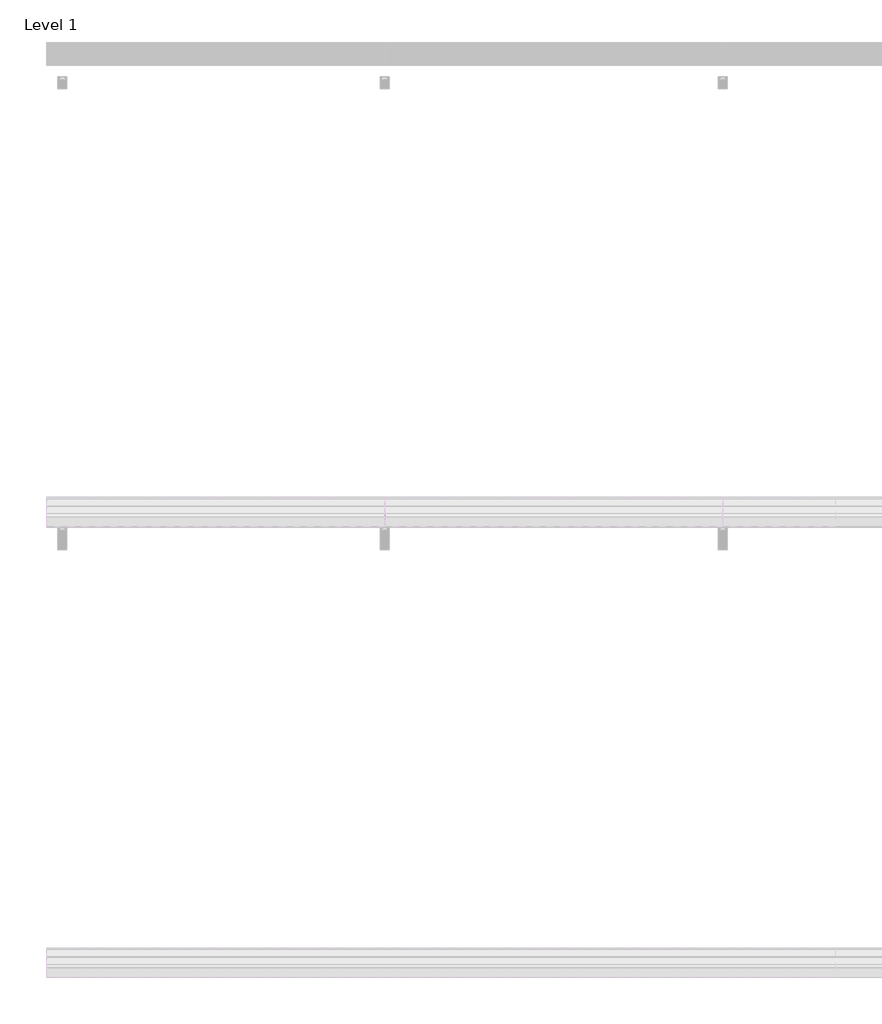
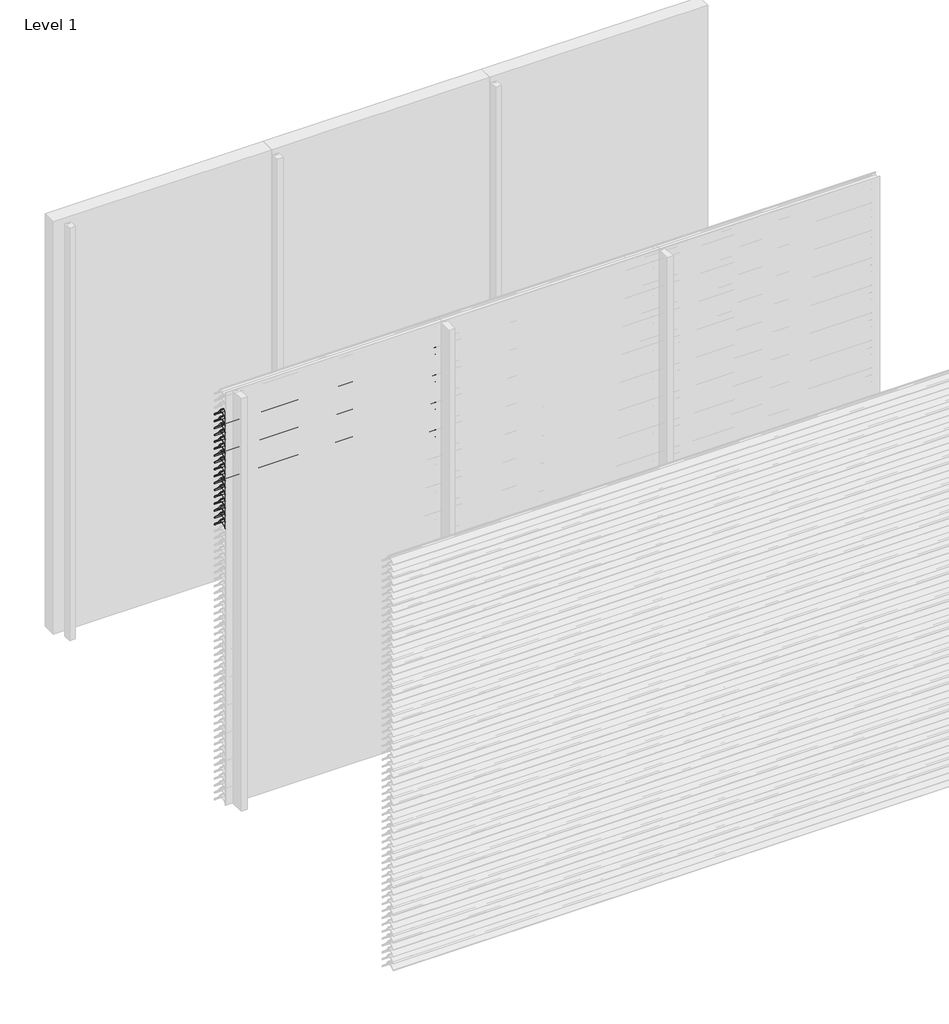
# One storey, part 58 of 173: 17 proxies.
"""IFC4 building model written with IfcOpenShell, lengths in millimetres."""

from ifc_helpers import new_model, si_unit, point, frame, frame_2d, origin, place, context, project, spatial, polyline, circle_curve, trimmed, segment, composite_curve, outline, extrude, element, save

model = new_model("IFC4")

# Units and contexts
model_context = context("Model", 3, world=origin())
ifc_project = project(units=[si_unit("LENGTHUNIT", "METRE", prefix="MILLI")], contexts=[model_context])

# Site, building, storey
site = spatial("IfcSite", under=ifc_project)
building = spatial("IfcBuilding", under=site)
storey = spatial("IfcBuildingStorey", under=building, Name="Level 1", Elevation=0.0)

# Proxies
placement = place(None, origin())
element("IfcBuildingElementProxy", 1, Name="Wall Sweeps", at=placement, inside=storey, context=model_context, shape_type="SweptSolid", body=[
    extrude(outline(composite_curve([segment(polyline([(-35998.0, 2809.1474905), (-35998.0, 2811.6227417)]), True, "CONTINUOUS"), segment(trimmed(circle_curve(frame_2d((-35951.2682172, 2766.2200208)), 65.1557103), [point((-35998.0, 2811.6227417))], [point((-35954.4014323, 2831.3003524))], False, "CARTESIAN"), True, "CONTINUOUS"), segment(polyline([(-35954.4014323, 2831.3003524), (-35934.8315836, 2831.3003524)]), True, "CONTINUOUS"), segment(trimmed(circle_curve(frame_2d((-35732.7329489, 2978.5533172)), 250.0545817), [point((-35934.8315836, 2831.3003524))], [point((-35941.4452143, 2840.8344583))], False, "CARTESIAN"), True, "CONTINUOUS"), segment(trimmed(circle_curve(frame_2d((-35953.2981792, 2835.1737835)), 13.1352966), [point((-35941.4452143, 2840.8344583))], [point((-35953.8171475, 2848.298824))], True, "CARTESIAN"), True, "CONTINUOUS"), segment(polyline([(-35953.8171475, 2848.298824), (-35953.8171475, 2850.0)]), True, "CONTINUOUS"), segment(trimmed(circle_curve(frame_2d((-35953.2981792, 2835.1737835)), 14.8352966), [point((-35953.8171475, 2850.0))], [point((-35939.9637661, 2841.6760487))], False, "CARTESIAN"), True, "CONTINUOUS"), segment(trimmed(circle_curve(frame_2d((-35732.7329489, 2978.5533172)), 248.3545817), [point((-35939.9637661, 2841.6760487))], [point((-35873.8787895, 2774.2059416))], True, "CARTESIAN"), True, "CONTINUOUS"), segment(trimmed(circle_curve(frame_2d((-35883.8147537, 2761.6649442)), 16.0), [point((-35873.8787895, 2774.2059416))], [point((-35867.8648347, 2760.4))], False, "CARTESIAN"), True, "CONTINUOUS"), segment(polyline([(-35867.8648347, 2760.4), (-35869.6712069, 2760.4)]), True, "CONTINUOUS"), segment(trimmed(circle_curve(frame_2d((-35883.8147537, 2761.6649442)), 14.2), [point((-35869.6712069, 2760.4))], [point((-35874.9518628, 2772.7594998))], True, "CARTESIAN"), True, "CONTINUOUS"), segment(trimmed(circle_curve(frame_2d((-35732.7329489, 2978.5533172)), 250.1545817), [point((-35874.9518628, 2772.7594998))], [point((-35933.7064024, 2829.6003524))], False, "CARTESIAN"), True, "CONTINUOUS"), segment(polyline([(-35933.7064024, 2829.6003524), (-35954.3602632, 2829.6003524)]), True, "CONTINUOUS"), segment(trimmed(circle_curve(frame_2d((-35951.2682172, 2766.2200208)), 63.4557103), [point((-35954.3602632, 2829.6003524))], [point((-35998.0, 2809.1474905))], True, "CARTESIAN"), True, "CONTINUOUS")], self_intersect=False)), frame((0.0, 0.0, 0.0), z_axis=(1.0, 0.0, 0.0), x_axis=(0.0, 1.0, 0.0)), (0.0, 0.0, 1.0), 1500.0),
])
element("IfcBuildingElementProxy", 2, Name="Wall Sweeps", at=placement, inside=storey, context=model_context, shape_type="SweptSolid", body=[
    extrude(outline(composite_curve([segment(polyline([(-35998.0, 2759.1474905), (-35998.0, 2761.6227417)]), True, "CONTINUOUS"), segment(trimmed(circle_curve(frame_2d((-35951.2682172, 2716.2200208)), 65.1557103), [point((-35998.0, 2761.6227417))], [point((-35954.4014323, 2781.3003524))], False, "CARTESIAN"), True, "CONTINUOUS"), segment(polyline([(-35954.4014323, 2781.3003524), (-35934.8315836, 2781.3003524)]), True, "CONTINUOUS"), segment(trimmed(circle_curve(frame_2d((-35732.7329489, 2928.5533172)), 250.0545817), [point((-35934.8315836, 2781.3003524))], [point((-35941.4452143, 2790.8344583))], False, "CARTESIAN"), True, "CONTINUOUS"), segment(trimmed(circle_curve(frame_2d((-35953.2981792, 2785.1737835)), 13.1352966), [point((-35941.4452143, 2790.8344583))], [point((-35953.8171475, 2798.298824))], True, "CARTESIAN"), True, "CONTINUOUS"), segment(polyline([(-35953.8171475, 2798.298824), (-35953.8171475, 2800.0)]), True, "CONTINUOUS"), segment(trimmed(circle_curve(frame_2d((-35953.2981792, 2785.1737835)), 14.8352966), [point((-35953.8171475, 2800.0))], [point((-35939.9637661, 2791.6760487))], False, "CARTESIAN"), True, "CONTINUOUS"), segment(trimmed(circle_curve(frame_2d((-35732.7329489, 2928.5533172)), 248.3545817), [point((-35939.9637661, 2791.6760487))], [point((-35873.8787895, 2724.2059416))], True, "CARTESIAN"), True, "CONTINUOUS"), segment(trimmed(circle_curve(frame_2d((-35883.8147537, 2711.6649442)), 16.0), [point((-35873.8787895, 2724.2059416))], [point((-35867.8648347, 2710.4))], False, "CARTESIAN"), True, "CONTINUOUS"), segment(polyline([(-35867.8648347, 2710.4), (-35869.6712069, 2710.4)]), True, "CONTINUOUS"), segment(trimmed(circle_curve(frame_2d((-35883.8147537, 2711.6649442)), 14.2), [point((-35869.6712069, 2710.4))], [point((-35874.9518628, 2722.7594998))], True, "CARTESIAN"), True, "CONTINUOUS"), segment(trimmed(circle_curve(frame_2d((-35732.7329489, 2928.5533172)), 250.1545817), [point((-35874.9518628, 2722.7594998))], [point((-35933.7064024, 2779.6003524))], False, "CARTESIAN"), True, "CONTINUOUS"), segment(polyline([(-35933.7064024, 2779.6003524), (-35954.3602632, 2779.6003524)]), True, "CONTINUOUS"), segment(trimmed(circle_curve(frame_2d((-35951.2682172, 2716.2200208)), 63.4557103), [point((-35954.3602632, 2779.6003524))], [point((-35998.0, 2759.1474905))], True, "CARTESIAN"), True, "CONTINUOUS")], self_intersect=False)), frame((0.0, 0.0, 0.0), z_axis=(1.0, 0.0, 0.0), x_axis=(0.0, 1.0, 0.0)), (0.0, 0.0, 1.0), 1500.0),
])
element("IfcBuildingElementProxy", 3, Name="Wall Sweeps", at=placement, inside=storey, context=model_context, shape_type="SweptSolid", body=[
    extrude(outline(composite_curve([segment(polyline([(-35998.0, 2709.1474905), (-35998.0, 2711.6227417)]), True, "CONTINUOUS"), segment(trimmed(circle_curve(frame_2d((-35951.2682172, 2666.2200208)), 65.1557103), [point((-35998.0, 2711.6227417))], [point((-35954.4014323, 2731.3003524))], False, "CARTESIAN"), True, "CONTINUOUS"), segment(polyline([(-35954.4014323, 2731.3003524), (-35934.8315836, 2731.3003524)]), True, "CONTINUOUS"), segment(trimmed(circle_curve(frame_2d((-35732.7329489, 2878.5533172)), 250.0545817), [point((-35934.8315836, 2731.3003524))], [point((-35941.4452143, 2740.8344583))], False, "CARTESIAN"), True, "CONTINUOUS"), segment(trimmed(circle_curve(frame_2d((-35953.2981792, 2735.1737835)), 13.1352966), [point((-35941.4452143, 2740.8344583))], [point((-35953.8171475, 2748.298824))], True, "CARTESIAN"), True, "CONTINUOUS"), segment(polyline([(-35953.8171475, 2748.298824), (-35953.8171475, 2750.0)]), True, "CONTINUOUS"), segment(trimmed(circle_curve(frame_2d((-35953.2981792, 2735.1737835)), 14.8352966), [point((-35953.8171475, 2750.0))], [point((-35939.9637661, 2741.6760487))], False, "CARTESIAN"), True, "CONTINUOUS"), segment(trimmed(circle_curve(frame_2d((-35732.7329489, 2878.5533172)), 248.3545817), [point((-35939.9637661, 2741.6760487))], [point((-35873.8787895, 2674.2059416))], True, "CARTESIAN"), True, "CONTINUOUS"), segment(trimmed(circle_curve(frame_2d((-35883.8147537, 2661.6649442)), 16.0), [point((-35873.8787895, 2674.2059416))], [point((-35867.8648347, 2660.4))], False, "CARTESIAN"), True, "CONTINUOUS"), segment(polyline([(-35867.8648347, 2660.4), (-35869.6712069, 2660.4)]), True, "CONTINUOUS"), segment(trimmed(circle_curve(frame_2d((-35883.8147537, 2661.6649442)), 14.2), [point((-35869.6712069, 2660.4))], [point((-35874.9518628, 2672.7594998))], True, "CARTESIAN"), True, "CONTINUOUS"), segment(trimmed(circle_curve(frame_2d((-35732.7329489, 2878.5533172)), 250.1545817), [point((-35874.9518628, 2672.7594998))], [point((-35933.7064024, 2729.6003524))], False, "CARTESIAN"), True, "CONTINUOUS"), segment(polyline([(-35933.7064024, 2729.6003524), (-35954.3602632, 2729.6003524)]), True, "CONTINUOUS"), segment(trimmed(circle_curve(frame_2d((-35951.2682172, 2666.2200208)), 63.4557103), [point((-35954.3602632, 2729.6003524))], [point((-35998.0, 2709.1474905))], True, "CARTESIAN"), True, "CONTINUOUS")], self_intersect=False)), frame((0.0, 0.0, 0.0), z_axis=(1.0, 0.0, 0.0), x_axis=(0.0, 1.0, 0.0)), (0.0, 0.0, 1.0), 1500.0),
])
element("IfcBuildingElementProxy", 4, Name="Wall Sweeps", at=placement, inside=storey, context=model_context, shape_type="SweptSolid", body=[
    extrude(outline(composite_curve([segment(polyline([(-35998.0, 2659.1474905), (-35998.0, 2661.6227417)]), True, "CONTINUOUS"), segment(trimmed(circle_curve(frame_2d((-35951.2682172, 2616.2200208)), 65.1557103), [point((-35998.0, 2661.6227417))], [point((-35954.4014323, 2681.3003524))], False, "CARTESIAN"), True, "CONTINUOUS"), segment(polyline([(-35954.4014323, 2681.3003524), (-35934.8315836, 2681.3003524)]), True, "CONTINUOUS"), segment(trimmed(circle_curve(frame_2d((-35732.7329489, 2828.5533172)), 250.0545817), [point((-35934.8315836, 2681.3003524))], [point((-35941.4452143, 2690.8344583))], False, "CARTESIAN"), True, "CONTINUOUS"), segment(trimmed(circle_curve(frame_2d((-35953.2981792, 2685.1737835)), 13.1352966), [point((-35941.4452143, 2690.8344583))], [point((-35953.8171475, 2698.298824))], True, "CARTESIAN"), True, "CONTINUOUS"), segment(polyline([(-35953.8171475, 2698.298824), (-35953.8171475, 2700.0)]), True, "CONTINUOUS"), segment(trimmed(circle_curve(frame_2d((-35953.2981792, 2685.1737835)), 14.8352966), [point((-35953.8171475, 2700.0))], [point((-35939.9637661, 2691.6760487))], False, "CARTESIAN"), True, "CONTINUOUS"), segment(trimmed(circle_curve(frame_2d((-35732.7329489, 2828.5533172)), 248.3545817), [point((-35939.9637661, 2691.6760487))], [point((-35873.8787895, 2624.2059416))], True, "CARTESIAN"), True, "CONTINUOUS"), segment(trimmed(circle_curve(frame_2d((-35883.8147537, 2611.6649442)), 16.0), [point((-35873.8787895, 2624.2059416))], [point((-35867.8648347, 2610.4))], False, "CARTESIAN"), True, "CONTINUOUS"), segment(polyline([(-35867.8648347, 2610.4), (-35869.6712069, 2610.4)]), True, "CONTINUOUS"), segment(trimmed(circle_curve(frame_2d((-35883.8147537, 2611.6649442)), 14.2), [point((-35869.6712069, 2610.4))], [point((-35874.9518628, 2622.7594998))], True, "CARTESIAN"), True, "CONTINUOUS"), segment(trimmed(circle_curve(frame_2d((-35732.7329489, 2828.5533172)), 250.1545817), [point((-35874.9518628, 2622.7594998))], [point((-35933.7064024, 2679.6003524))], False, "CARTESIAN"), True, "CONTINUOUS"), segment(polyline([(-35933.7064024, 2679.6003524), (-35954.3602632, 2679.6003524)]), True, "CONTINUOUS"), segment(trimmed(circle_curve(frame_2d((-35951.2682172, 2616.2200208)), 63.4557103), [point((-35954.3602632, 2679.6003524))], [point((-35998.0, 2659.1474905))], True, "CARTESIAN"), True, "CONTINUOUS")], self_intersect=False)), frame((0.0, 0.0, 0.0), z_axis=(1.0, 0.0, 0.0), x_axis=(0.0, 1.0, 0.0)), (0.0, 0.0, 1.0), 1500.0),
])
element("IfcBuildingElementProxy", 5, Name="Wall Sweeps", at=placement, inside=storey, context=model_context, shape_type="SweptSolid", body=[
    extrude(outline(composite_curve([segment(polyline([(-35998.0, 2609.1474905), (-35998.0, 2611.6227417)]), True, "CONTINUOUS"), segment(trimmed(circle_curve(frame_2d((-35951.2682172, 2566.2200208)), 65.1557103), [point((-35998.0, 2611.6227417))], [point((-35954.4014323, 2631.3003524))], False, "CARTESIAN"), True, "CONTINUOUS"), segment(polyline([(-35954.4014323, 2631.3003524), (-35934.8315836, 2631.3003524)]), True, "CONTINUOUS"), segment(trimmed(circle_curve(frame_2d((-35732.7329489, 2778.5533172)), 250.0545817), [point((-35934.8315836, 2631.3003524))], [point((-35941.4452143, 2640.8344583))], False, "CARTESIAN"), True, "CONTINUOUS"), segment(trimmed(circle_curve(frame_2d((-35953.2981792, 2635.1737835)), 13.1352966), [point((-35941.4452143, 2640.8344583))], [point((-35953.8171475, 2648.298824))], True, "CARTESIAN"), True, "CONTINUOUS"), segment(polyline([(-35953.8171475, 2648.298824), (-35953.8171475, 2650.0)]), True, "CONTINUOUS"), segment(trimmed(circle_curve(frame_2d((-35953.2981792, 2635.1737835)), 14.8352966), [point((-35953.8171475, 2650.0))], [point((-35939.9637661, 2641.6760487))], False, "CARTESIAN"), True, "CONTINUOUS"), segment(trimmed(circle_curve(frame_2d((-35732.7329489, 2778.5533172)), 248.3545817), [point((-35939.9637661, 2641.6760487))], [point((-35873.8787895, 2574.2059416))], True, "CARTESIAN"), True, "CONTINUOUS"), segment(trimmed(circle_curve(frame_2d((-35883.8147537, 2561.6649442)), 16.0), [point((-35873.8787895, 2574.2059416))], [point((-35867.8648347, 2560.4))], False, "CARTESIAN"), True, "CONTINUOUS"), segment(polyline([(-35867.8648347, 2560.4), (-35869.6712069, 2560.4)]), True, "CONTINUOUS"), segment(trimmed(circle_curve(frame_2d((-35883.8147537, 2561.6649442)), 14.2), [point((-35869.6712069, 2560.4))], [point((-35874.9518628, 2572.7594998))], True, "CARTESIAN"), True, "CONTINUOUS"), segment(trimmed(circle_curve(frame_2d((-35732.7329489, 2778.5533172)), 250.1545817), [point((-35874.9518628, 2572.7594998))], [point((-35933.7064024, 2629.6003524))], False, "CARTESIAN"), True, "CONTINUOUS"), segment(polyline([(-35933.7064024, 2629.6003524), (-35954.3602632, 2629.6003524)]), True, "CONTINUOUS"), segment(trimmed(circle_curve(frame_2d((-35951.2682172, 2566.2200208)), 63.4557103), [point((-35954.3602632, 2629.6003524))], [point((-35998.0, 2609.1474905))], True, "CARTESIAN"), True, "CONTINUOUS")], self_intersect=False)), frame((0.0, 0.0, 0.0), z_axis=(1.0, 0.0, 0.0), x_axis=(0.0, 1.0, 0.0)), (0.0, 0.0, 1.0), 1500.0),
])
element("IfcBuildingElementProxy", 6, Name="Wall Sweeps", at=placement, inside=storey, context=model_context, shape_type="SweptSolid", body=[
    extrude(outline(composite_curve([segment(polyline([(-35998.0, 2559.1474905), (-35998.0, 2561.6227417)]), True, "CONTINUOUS"), segment(trimmed(circle_curve(frame_2d((-35951.2682172, 2516.2200208)), 65.1557103), [point((-35998.0, 2561.6227417))], [point((-35954.4014323, 2581.3003524))], False, "CARTESIAN"), True, "CONTINUOUS"), segment(polyline([(-35954.4014323, 2581.3003524), (-35934.8315836, 2581.3003524)]), True, "CONTINUOUS"), segment(trimmed(circle_curve(frame_2d((-35732.7329489, 2728.5533172)), 250.0545817), [point((-35934.8315836, 2581.3003524))], [point((-35941.4452143, 2590.8344583))], False, "CARTESIAN"), True, "CONTINUOUS"), segment(trimmed(circle_curve(frame_2d((-35953.2981792, 2585.1737835)), 13.1352966), [point((-35941.4452143, 2590.8344583))], [point((-35953.8171475, 2598.298824))], True, "CARTESIAN"), True, "CONTINUOUS"), segment(polyline([(-35953.8171475, 2598.298824), (-35953.8171475, 2600.0)]), True, "CONTINUOUS"), segment(trimmed(circle_curve(frame_2d((-35953.2981792, 2585.1737835)), 14.8352966), [point((-35953.8171475, 2600.0))], [point((-35939.9637661, 2591.6760487))], False, "CARTESIAN"), True, "CONTINUOUS"), segment(trimmed(circle_curve(frame_2d((-35732.7329489, 2728.5533172)), 248.3545817), [point((-35939.9637661, 2591.6760487))], [point((-35873.8787895, 2524.2059416))], True, "CARTESIAN"), True, "CONTINUOUS"), segment(trimmed(circle_curve(frame_2d((-35883.8147537, 2511.6649442)), 16.0), [point((-35873.8787895, 2524.2059416))], [point((-35867.8648347, 2510.4))], False, "CARTESIAN"), True, "CONTINUOUS"), segment(polyline([(-35867.8648347, 2510.4), (-35869.6712069, 2510.4)]), True, "CONTINUOUS"), segment(trimmed(circle_curve(frame_2d((-35883.8147537, 2511.6649442)), 14.2), [point((-35869.6712069, 2510.4))], [point((-35874.9518628, 2522.7594998))], True, "CARTESIAN"), True, "CONTINUOUS"), segment(trimmed(circle_curve(frame_2d((-35732.7329489, 2728.5533172)), 250.1545817), [point((-35874.9518628, 2522.7594998))], [point((-35933.7064024, 2579.6003524))], False, "CARTESIAN"), True, "CONTINUOUS"), segment(polyline([(-35933.7064024, 2579.6003524), (-35954.3602632, 2579.6003524)]), True, "CONTINUOUS"), segment(trimmed(circle_curve(frame_2d((-35951.2682172, 2516.2200208)), 63.4557103), [point((-35954.3602632, 2579.6003524))], [point((-35998.0, 2559.1474905))], True, "CARTESIAN"), True, "CONTINUOUS")], self_intersect=False)), frame((0.0, 0.0, 0.0), z_axis=(1.0, 0.0, 0.0), x_axis=(0.0, 1.0, 0.0)), (0.0, 0.0, 1.0), 1500.0),
])
element("IfcBuildingElementProxy", 7, Name="Wall Sweeps", at=placement, inside=storey, context=model_context, shape_type="SweptSolid", body=[
    extrude(outline(composite_curve([segment(polyline([(-35998.0, 2509.1474905), (-35998.0, 2511.6227417)]), True, "CONTINUOUS"), segment(trimmed(circle_curve(frame_2d((-35951.2682172, 2466.2200208)), 65.1557103), [point((-35998.0, 2511.6227417))], [point((-35954.4014323, 2531.3003524))], False, "CARTESIAN"), True, "CONTINUOUS"), segment(polyline([(-35954.4014323, 2531.3003524), (-35934.8315836, 2531.3003524)]), True, "CONTINUOUS"), segment(trimmed(circle_curve(frame_2d((-35732.7329489, 2678.5533172)), 250.0545817), [point((-35934.8315836, 2531.3003524))], [point((-35941.4452143, 2540.8344583))], False, "CARTESIAN"), True, "CONTINUOUS"), segment(trimmed(circle_curve(frame_2d((-35953.2981792, 2535.1737835)), 13.1352966), [point((-35941.4452143, 2540.8344583))], [point((-35953.8171475, 2548.298824))], True, "CARTESIAN"), True, "CONTINUOUS"), segment(polyline([(-35953.8171475, 2548.298824), (-35953.8171475, 2550.0)]), True, "CONTINUOUS"), segment(trimmed(circle_curve(frame_2d((-35953.2981792, 2535.1737835)), 14.8352966), [point((-35953.8171475, 2550.0))], [point((-35939.9637661, 2541.6760487))], False, "CARTESIAN"), True, "CONTINUOUS"), segment(trimmed(circle_curve(frame_2d((-35732.7329489, 2678.5533172)), 248.3545817), [point((-35939.9637661, 2541.6760487))], [point((-35873.8787895, 2474.2059416))], True, "CARTESIAN"), True, "CONTINUOUS"), segment(trimmed(circle_curve(frame_2d((-35883.8147537, 2461.6649442)), 16.0), [point((-35873.8787895, 2474.2059416))], [point((-35867.8648347, 2460.4))], False, "CARTESIAN"), True, "CONTINUOUS"), segment(polyline([(-35867.8648347, 2460.4), (-35869.6712069, 2460.4)]), True, "CONTINUOUS"), segment(trimmed(circle_curve(frame_2d((-35883.8147537, 2461.6649442)), 14.2), [point((-35869.6712069, 2460.4))], [point((-35874.9518628, 2472.7594998))], True, "CARTESIAN"), True, "CONTINUOUS"), segment(trimmed(circle_curve(frame_2d((-35732.7329489, 2678.5533172)), 250.1545817), [point((-35874.9518628, 2472.7594998))], [point((-35933.7064024, 2529.6003524))], False, "CARTESIAN"), True, "CONTINUOUS"), segment(polyline([(-35933.7064024, 2529.6003524), (-35954.3602632, 2529.6003524)]), True, "CONTINUOUS"), segment(trimmed(circle_curve(frame_2d((-35951.2682172, 2466.2200208)), 63.4557103), [point((-35954.3602632, 2529.6003524))], [point((-35998.0, 2509.1474905))], True, "CARTESIAN"), True, "CONTINUOUS")], self_intersect=False)), frame((0.0, 0.0, 0.0), z_axis=(1.0, 0.0, 0.0), x_axis=(0.0, 1.0, 0.0)), (0.0, 0.0, 1.0), 1500.0),
])
element("IfcBuildingElementProxy", 8, Name="Wall Sweeps", at=placement, inside=storey, context=model_context, shape_type="SweptSolid", body=[
    extrude(outline(composite_curve([segment(polyline([(-35998.0, 2459.1474905), (-35998.0, 2461.6227417)]), True, "CONTINUOUS"), segment(trimmed(circle_curve(frame_2d((-35951.2682172, 2416.2200208)), 65.1557103), [point((-35998.0, 2461.6227417))], [point((-35954.4014323, 2481.3003524))], False, "CARTESIAN"), True, "CONTINUOUS"), segment(polyline([(-35954.4014323, 2481.3003524), (-35934.8315836, 2481.3003524)]), True, "CONTINUOUS"), segment(trimmed(circle_curve(frame_2d((-35732.7329489, 2628.5533172)), 250.0545817), [point((-35934.8315836, 2481.3003524))], [point((-35941.4452143, 2490.8344583))], False, "CARTESIAN"), True, "CONTINUOUS"), segment(trimmed(circle_curve(frame_2d((-35953.2981792, 2485.1737835)), 13.1352966), [point((-35941.4452143, 2490.8344583))], [point((-35953.8171475, 2498.298824))], True, "CARTESIAN"), True, "CONTINUOUS"), segment(polyline([(-35953.8171475, 2498.298824), (-35953.8171475, 2500.0)]), True, "CONTINUOUS"), segment(trimmed(circle_curve(frame_2d((-35953.2981792, 2485.1737835)), 14.8352966), [point((-35953.8171475, 2500.0))], [point((-35939.9637661, 2491.6760487))], False, "CARTESIAN"), True, "CONTINUOUS"), segment(trimmed(circle_curve(frame_2d((-35732.7329489, 2628.5533172)), 248.3545817), [point((-35939.9637661, 2491.6760487))], [point((-35873.8787895, 2424.2059416))], True, "CARTESIAN"), True, "CONTINUOUS"), segment(trimmed(circle_curve(frame_2d((-35883.8147537, 2411.6649442)), 16.0), [point((-35873.8787895, 2424.2059416))], [point((-35867.8648347, 2410.4))], False, "CARTESIAN"), True, "CONTINUOUS"), segment(polyline([(-35867.8648347, 2410.4), (-35869.6712069, 2410.4)]), True, "CONTINUOUS"), segment(trimmed(circle_curve(frame_2d((-35883.8147537, 2411.6649442)), 14.2), [point((-35869.6712069, 2410.4))], [point((-35874.9518628, 2422.7594998))], True, "CARTESIAN"), True, "CONTINUOUS"), segment(trimmed(circle_curve(frame_2d((-35732.7329489, 2628.5533172)), 250.1545817), [point((-35874.9518628, 2422.7594998))], [point((-35933.7064024, 2479.6003524))], False, "CARTESIAN"), True, "CONTINUOUS"), segment(polyline([(-35933.7064024, 2479.6003524), (-35954.3602632, 2479.6003524)]), True, "CONTINUOUS"), segment(trimmed(circle_curve(frame_2d((-35951.2682172, 2416.2200208)), 63.4557103), [point((-35954.3602632, 2479.6003524))], [point((-35998.0, 2459.1474905))], True, "CARTESIAN"), True, "CONTINUOUS")], self_intersect=False)), frame((0.0, 0.0, 0.0), z_axis=(1.0, 0.0, 0.0), x_axis=(0.0, 1.0, 0.0)), (0.0, 0.0, 1.0), 1500.0),
])
element("IfcBuildingElementProxy", 9, Name="Wall Sweeps", at=placement, inside=storey, context=model_context, shape_type="SweptSolid", body=[
    extrude(outline(composite_curve([segment(polyline([(-35998.0, 2409.1474905), (-35998.0, 2411.6227417)]), True, "CONTINUOUS"), segment(trimmed(circle_curve(frame_2d((-35951.2682172, 2366.2200208)), 65.1557103), [point((-35998.0, 2411.6227417))], [point((-35954.4014323, 2431.3003524))], False, "CARTESIAN"), True, "CONTINUOUS"), segment(polyline([(-35954.4014323, 2431.3003524), (-35934.8315836, 2431.3003524)]), True, "CONTINUOUS"), segment(trimmed(circle_curve(frame_2d((-35732.7329489, 2578.5533172)), 250.0545817), [point((-35934.8315836, 2431.3003524))], [point((-35941.4452143, 2440.8344583))], False, "CARTESIAN"), True, "CONTINUOUS"), segment(trimmed(circle_curve(frame_2d((-35953.2981792, 2435.1737835)), 13.1352966), [point((-35941.4452143, 2440.8344583))], [point((-35953.8171475, 2448.298824))], True, "CARTESIAN"), True, "CONTINUOUS"), segment(polyline([(-35953.8171475, 2448.298824), (-35953.8171475, 2450.0)]), True, "CONTINUOUS"), segment(trimmed(circle_curve(frame_2d((-35953.2981792, 2435.1737835)), 14.8352966), [point((-35953.8171475, 2450.0))], [point((-35939.9637661, 2441.6760487))], False, "CARTESIAN"), True, "CONTINUOUS"), segment(trimmed(circle_curve(frame_2d((-35732.7329489, 2578.5533172)), 248.3545817), [point((-35939.9637661, 2441.6760487))], [point((-35873.8787895, 2374.2059416))], True, "CARTESIAN"), True, "CONTINUOUS"), segment(trimmed(circle_curve(frame_2d((-35883.8147537, 2361.6649442)), 16.0), [point((-35873.8787895, 2374.2059416))], [point((-35867.8648347, 2360.4))], False, "CARTESIAN"), True, "CONTINUOUS"), segment(polyline([(-35867.8648347, 2360.4), (-35869.6712069, 2360.4)]), True, "CONTINUOUS"), segment(trimmed(circle_curve(frame_2d((-35883.8147537, 2361.6649442)), 14.2), [point((-35869.6712069, 2360.4))], [point((-35874.9518628, 2372.7594998))], True, "CARTESIAN"), True, "CONTINUOUS"), segment(trimmed(circle_curve(frame_2d((-35732.7329489, 2578.5533172)), 250.1545817), [point((-35874.9518628, 2372.7594998))], [point((-35933.7064024, 2429.6003524))], False, "CARTESIAN"), True, "CONTINUOUS"), segment(polyline([(-35933.7064024, 2429.6003524), (-35954.3602632, 2429.6003524)]), True, "CONTINUOUS"), segment(trimmed(circle_curve(frame_2d((-35951.2682172, 2366.2200208)), 63.4557103), [point((-35954.3602632, 2429.6003524))], [point((-35998.0, 2409.1474905))], True, "CARTESIAN"), True, "CONTINUOUS")], self_intersect=False)), frame((0.0, 0.0, 0.0), z_axis=(1.0, 0.0, 0.0), x_axis=(0.0, 1.0, 0.0)), (0.0, 0.0, 1.0), 1500.0),
])
element("IfcBuildingElementProxy", 10, Name="Wall Sweeps", at=placement, inside=storey, context=model_context, shape_type="SweptSolid", body=[
    extrude(outline(composite_curve([segment(polyline([(-35998.0, 2359.1474905), (-35998.0, 2361.6227417)]), True, "CONTINUOUS"), segment(trimmed(circle_curve(frame_2d((-35951.2682172, 2316.2200208)), 65.1557103), [point((-35998.0, 2361.6227417))], [point((-35954.4014323, 2381.3003524))], False, "CARTESIAN"), True, "CONTINUOUS"), segment(polyline([(-35954.4014323, 2381.3003524), (-35934.8315836, 2381.3003524)]), True, "CONTINUOUS"), segment(trimmed(circle_curve(frame_2d((-35732.7329489, 2528.5533172)), 250.0545817), [point((-35934.8315836, 2381.3003524))], [point((-35941.4452143, 2390.8344583))], False, "CARTESIAN"), True, "CONTINUOUS"), segment(trimmed(circle_curve(frame_2d((-35953.2981792, 2385.1737835)), 13.1352966), [point((-35941.4452143, 2390.8344583))], [point((-35953.8171475, 2398.298824))], True, "CARTESIAN"), True, "CONTINUOUS"), segment(polyline([(-35953.8171475, 2398.298824), (-35953.8171475, 2400.0)]), True, "CONTINUOUS"), segment(trimmed(circle_curve(frame_2d((-35953.2981792, 2385.1737835)), 14.8352966), [point((-35953.8171475, 2400.0))], [point((-35939.9637661, 2391.6760487))], False, "CARTESIAN"), True, "CONTINUOUS"), segment(trimmed(circle_curve(frame_2d((-35732.7329489, 2528.5533172)), 248.3545817), [point((-35939.9637661, 2391.6760487))], [point((-35873.8787895, 2324.2059416))], True, "CARTESIAN"), True, "CONTINUOUS"), segment(trimmed(circle_curve(frame_2d((-35883.8147537, 2311.6649442)), 16.0), [point((-35873.8787895, 2324.2059416))], [point((-35867.8648347, 2310.4))], False, "CARTESIAN"), True, "CONTINUOUS"), segment(polyline([(-35867.8648347, 2310.4), (-35869.6712069, 2310.4)]), True, "CONTINUOUS"), segment(trimmed(circle_curve(frame_2d((-35883.8147537, 2311.6649442)), 14.2), [point((-35869.6712069, 2310.4))], [point((-35874.9518628, 2322.7594998))], True, "CARTESIAN"), True, "CONTINUOUS"), segment(trimmed(circle_curve(frame_2d((-35732.7329489, 2528.5533172)), 250.1545817), [point((-35874.9518628, 2322.7594998))], [point((-35933.7064024, 2379.6003524))], False, "CARTESIAN"), True, "CONTINUOUS"), segment(polyline([(-35933.7064024, 2379.6003524), (-35954.3602632, 2379.6003524)]), True, "CONTINUOUS"), segment(trimmed(circle_curve(frame_2d((-35951.2682172, 2316.2200208)), 63.4557103), [point((-35954.3602632, 2379.6003524))], [point((-35998.0, 2359.1474905))], True, "CARTESIAN"), True, "CONTINUOUS")], self_intersect=False)), frame((0.0, 0.0, 0.0), z_axis=(1.0, 0.0, 0.0), x_axis=(0.0, 1.0, 0.0)), (0.0, 0.0, 1.0), 1500.0),
])
element("IfcBuildingElementProxy", 11, Name="Wall Sweeps", at=placement, inside=storey, context=model_context, shape_type="SweptSolid", body=[
    extrude(outline(composite_curve([segment(polyline([(-35998.0, 2309.1474905), (-35998.0, 2311.6227417)]), True, "CONTINUOUS"), segment(trimmed(circle_curve(frame_2d((-35951.2682172, 2266.2200208)), 65.1557103), [point((-35998.0, 2311.6227417))], [point((-35954.4014323, 2331.3003524))], False, "CARTESIAN"), True, "CONTINUOUS"), segment(polyline([(-35954.4014323, 2331.3003524), (-35934.8315836, 2331.3003524)]), True, "CONTINUOUS"), segment(trimmed(circle_curve(frame_2d((-35732.7329489, 2478.5533172)), 250.0545817), [point((-35934.8315836, 2331.3003524))], [point((-35941.4452143, 2340.8344583))], False, "CARTESIAN"), True, "CONTINUOUS"), segment(trimmed(circle_curve(frame_2d((-35953.2981792, 2335.1737835)), 13.1352966), [point((-35941.4452143, 2340.8344583))], [point((-35953.8171475, 2348.298824))], True, "CARTESIAN"), True, "CONTINUOUS"), segment(polyline([(-35953.8171475, 2348.298824), (-35953.8171475, 2350.0)]), True, "CONTINUOUS"), segment(trimmed(circle_curve(frame_2d((-35953.2981792, 2335.1737835)), 14.8352966), [point((-35953.8171475, 2350.0))], [point((-35939.9637661, 2341.6760487))], False, "CARTESIAN"), True, "CONTINUOUS"), segment(trimmed(circle_curve(frame_2d((-35732.7329489, 2478.5533172)), 248.3545817), [point((-35939.9637661, 2341.6760487))], [point((-35873.8787895, 2274.2059416))], True, "CARTESIAN"), True, "CONTINUOUS"), segment(trimmed(circle_curve(frame_2d((-35883.8147537, 2261.6649442)), 16.0), [point((-35873.8787895, 2274.2059416))], [point((-35867.8648347, 2260.4))], False, "CARTESIAN"), True, "CONTINUOUS"), segment(polyline([(-35867.8648347, 2260.4), (-35869.6712069, 2260.4)]), True, "CONTINUOUS"), segment(trimmed(circle_curve(frame_2d((-35883.8147537, 2261.6649442)), 14.2), [point((-35869.6712069, 2260.4))], [point((-35874.9518628, 2272.7594998))], True, "CARTESIAN"), True, "CONTINUOUS"), segment(trimmed(circle_curve(frame_2d((-35732.7329489, 2478.5533172)), 250.1545817), [point((-35874.9518628, 2272.7594998))], [point((-35933.7064024, 2329.6003524))], False, "CARTESIAN"), True, "CONTINUOUS"), segment(polyline([(-35933.7064024, 2329.6003524), (-35954.3602632, 2329.6003524)]), True, "CONTINUOUS"), segment(trimmed(circle_curve(frame_2d((-35951.2682172, 2266.2200208)), 63.4557103), [point((-35954.3602632, 2329.6003524))], [point((-35998.0, 2309.1474905))], True, "CARTESIAN"), True, "CONTINUOUS")], self_intersect=False)), frame((0.0, 0.0, 0.0), z_axis=(1.0, 0.0, 0.0), x_axis=(0.0, 1.0, 0.0)), (0.0, 0.0, 1.0), 1500.0),
])
element("IfcBuildingElementProxy", 12, Name="Wall Sweeps", at=placement, inside=storey, context=model_context, shape_type="SweptSolid", body=[
    extrude(outline(composite_curve([segment(polyline([(-35998.0, 2259.1474905), (-35998.0, 2261.6227417)]), True, "CONTINUOUS"), segment(trimmed(circle_curve(frame_2d((-35951.2682172, 2216.2200208)), 65.1557103), [point((-35998.0, 2261.6227417))], [point((-35954.4014323, 2281.3003524))], False, "CARTESIAN"), True, "CONTINUOUS"), segment(polyline([(-35954.4014323, 2281.3003524), (-35934.8315836, 2281.3003524)]), True, "CONTINUOUS"), segment(trimmed(circle_curve(frame_2d((-35732.7329489, 2428.5533172)), 250.0545817), [point((-35934.8315836, 2281.3003524))], [point((-35941.4452143, 2290.8344583))], False, "CARTESIAN"), True, "CONTINUOUS"), segment(trimmed(circle_curve(frame_2d((-35953.2981792, 2285.1737835)), 13.1352966), [point((-35941.4452143, 2290.8344583))], [point((-35953.8171475, 2298.298824))], True, "CARTESIAN"), True, "CONTINUOUS"), segment(polyline([(-35953.8171475, 2298.298824), (-35953.8171475, 2300.0)]), True, "CONTINUOUS"), segment(trimmed(circle_curve(frame_2d((-35953.2981792, 2285.1737835)), 14.8352966), [point((-35953.8171475, 2300.0))], [point((-35939.9637661, 2291.6760487))], False, "CARTESIAN"), True, "CONTINUOUS"), segment(trimmed(circle_curve(frame_2d((-35732.7329489, 2428.5533172)), 248.3545817), [point((-35939.9637661, 2291.6760487))], [point((-35873.8787895, 2224.2059416))], True, "CARTESIAN"), True, "CONTINUOUS"), segment(trimmed(circle_curve(frame_2d((-35883.8147537, 2211.6649442)), 16.0), [point((-35873.8787895, 2224.2059416))], [point((-35867.8648347, 2210.4))], False, "CARTESIAN"), True, "CONTINUOUS"), segment(polyline([(-35867.8648347, 2210.4), (-35869.6712069, 2210.4)]), True, "CONTINUOUS"), segment(trimmed(circle_curve(frame_2d((-35883.8147537, 2211.6649442)), 14.2), [point((-35869.6712069, 2210.4))], [point((-35874.9518628, 2222.7594998))], True, "CARTESIAN"), True, "CONTINUOUS"), segment(trimmed(circle_curve(frame_2d((-35732.7329489, 2428.5533172)), 250.1545817), [point((-35874.9518628, 2222.7594998))], [point((-35933.7064024, 2279.6003524))], False, "CARTESIAN"), True, "CONTINUOUS"), segment(polyline([(-35933.7064024, 2279.6003524), (-35954.3602632, 2279.6003524)]), True, "CONTINUOUS"), segment(trimmed(circle_curve(frame_2d((-35951.2682172, 2216.2200208)), 63.4557103), [point((-35954.3602632, 2279.6003524))], [point((-35998.0, 2259.1474905))], True, "CARTESIAN"), True, "CONTINUOUS")], self_intersect=False)), frame((0.0, 0.0, 0.0), z_axis=(1.0, 0.0, 0.0), x_axis=(0.0, 1.0, 0.0)), (0.0, 0.0, 1.0), 1500.0),
])
element("IfcBuildingElementProxy", 13, Name="Wall Sweeps", at=placement, inside=storey, context=model_context, shape_type="SweptSolid", body=[
    extrude(outline(composite_curve([segment(polyline([(-35998.0, 2209.1474905), (-35998.0, 2211.6227417)]), True, "CONTINUOUS"), segment(trimmed(circle_curve(frame_2d((-35951.2682172, 2166.2200208)), 65.1557103), [point((-35998.0, 2211.6227417))], [point((-35954.4014323, 2231.3003524))], False, "CARTESIAN"), True, "CONTINUOUS"), segment(polyline([(-35954.4014323, 2231.3003524), (-35934.8315836, 2231.3003524)]), True, "CONTINUOUS"), segment(trimmed(circle_curve(frame_2d((-35732.7329489, 2378.5533172)), 250.0545817), [point((-35934.8315836, 2231.3003524))], [point((-35941.4452143, 2240.8344583))], False, "CARTESIAN"), True, "CONTINUOUS"), segment(trimmed(circle_curve(frame_2d((-35953.2981792, 2235.1737835)), 13.1352966), [point((-35941.4452143, 2240.8344583))], [point((-35953.8171475, 2248.298824))], True, "CARTESIAN"), True, "CONTINUOUS"), segment(polyline([(-35953.8171475, 2248.298824), (-35953.8171475, 2250.0)]), True, "CONTINUOUS"), segment(trimmed(circle_curve(frame_2d((-35953.2981792, 2235.1737835)), 14.8352966), [point((-35953.8171475, 2250.0))], [point((-35939.9637661, 2241.6760487))], False, "CARTESIAN"), True, "CONTINUOUS"), segment(trimmed(circle_curve(frame_2d((-35732.7329489, 2378.5533172)), 248.3545817), [point((-35939.9637661, 2241.6760487))], [point((-35873.8787895, 2174.2059416))], True, "CARTESIAN"), True, "CONTINUOUS"), segment(trimmed(circle_curve(frame_2d((-35883.8147537, 2161.6649442)), 16.0), [point((-35873.8787895, 2174.2059416))], [point((-35867.8648347, 2160.4))], False, "CARTESIAN"), True, "CONTINUOUS"), segment(polyline([(-35867.8648347, 2160.4), (-35869.6712069, 2160.4)]), True, "CONTINUOUS"), segment(trimmed(circle_curve(frame_2d((-35883.8147537, 2161.6649442)), 14.2), [point((-35869.6712069, 2160.4))], [point((-35874.9518628, 2172.7594998))], True, "CARTESIAN"), True, "CONTINUOUS"), segment(trimmed(circle_curve(frame_2d((-35732.7329489, 2378.5533172)), 250.1545817), [point((-35874.9518628, 2172.7594998))], [point((-35933.7064024, 2229.6003524))], False, "CARTESIAN"), True, "CONTINUOUS"), segment(polyline([(-35933.7064024, 2229.6003524), (-35954.3602632, 2229.6003524)]), True, "CONTINUOUS"), segment(trimmed(circle_curve(frame_2d((-35951.2682172, 2166.2200208)), 63.4557103), [point((-35954.3602632, 2229.6003524))], [point((-35998.0, 2209.1474905))], True, "CARTESIAN"), True, "CONTINUOUS")], self_intersect=False)), frame((0.0, 0.0, 0.0), z_axis=(1.0, 0.0, 0.0), x_axis=(0.0, 1.0, 0.0)), (0.0, 0.0, 1.0), 1500.0),
])
element("IfcBuildingElementProxy", 14, Name="Wall Sweeps", at=placement, inside=storey, context=model_context, shape_type="SweptSolid", body=[
    extrude(outline(composite_curve([segment(polyline([(-35998.0, 2159.1474905), (-35998.0, 2161.6227417)]), True, "CONTINUOUS"), segment(trimmed(circle_curve(frame_2d((-35951.2682172, 2116.2200208)), 65.1557103), [point((-35998.0, 2161.6227417))], [point((-35954.4014323, 2181.3003524))], False, "CARTESIAN"), True, "CONTINUOUS"), segment(polyline([(-35954.4014323, 2181.3003524), (-35934.8315836, 2181.3003524)]), True, "CONTINUOUS"), segment(trimmed(circle_curve(frame_2d((-35732.7329489, 2328.5533172)), 250.0545817), [point((-35934.8315836, 2181.3003524))], [point((-35941.4452143, 2190.8344583))], False, "CARTESIAN"), True, "CONTINUOUS"), segment(trimmed(circle_curve(frame_2d((-35953.2981792, 2185.1737835)), 13.1352966), [point((-35941.4452143, 2190.8344583))], [point((-35953.8171475, 2198.298824))], True, "CARTESIAN"), True, "CONTINUOUS"), segment(polyline([(-35953.8171475, 2198.298824), (-35953.8171475, 2200.0)]), True, "CONTINUOUS"), segment(trimmed(circle_curve(frame_2d((-35953.2981792, 2185.1737835)), 14.8352966), [point((-35953.8171475, 2200.0))], [point((-35939.9637661, 2191.6760487))], False, "CARTESIAN"), True, "CONTINUOUS"), segment(trimmed(circle_curve(frame_2d((-35732.7329489, 2328.5533172)), 248.3545817), [point((-35939.9637661, 2191.6760487))], [point((-35873.8787895, 2124.2059416))], True, "CARTESIAN"), True, "CONTINUOUS"), segment(trimmed(circle_curve(frame_2d((-35883.8147537, 2111.6649442)), 16.0), [point((-35873.8787895, 2124.2059416))], [point((-35867.8648347, 2110.4))], False, "CARTESIAN"), True, "CONTINUOUS"), segment(polyline([(-35867.8648347, 2110.4), (-35869.6712069, 2110.4)]), True, "CONTINUOUS"), segment(trimmed(circle_curve(frame_2d((-35883.8147537, 2111.6649442)), 14.2), [point((-35869.6712069, 2110.4))], [point((-35874.9518628, 2122.7594998))], True, "CARTESIAN"), True, "CONTINUOUS"), segment(trimmed(circle_curve(frame_2d((-35732.7329489, 2328.5533172)), 250.1545817), [point((-35874.9518628, 2122.7594998))], [point((-35933.7064024, 2179.6003524))], False, "CARTESIAN"), True, "CONTINUOUS"), segment(polyline([(-35933.7064024, 2179.6003524), (-35954.3602632, 2179.6003524)]), True, "CONTINUOUS"), segment(trimmed(circle_curve(frame_2d((-35951.2682172, 2116.2200208)), 63.4557103), [point((-35954.3602632, 2179.6003524))], [point((-35998.0, 2159.1474905))], True, "CARTESIAN"), True, "CONTINUOUS")], self_intersect=False)), frame((0.0, 0.0, 0.0), z_axis=(1.0, 0.0, 0.0), x_axis=(0.0, 1.0, 0.0)), (0.0, 0.0, 1.0), 1500.0),
])
element("IfcBuildingElementProxy", 15, Name="Wall Sweeps", at=placement, inside=storey, context=model_context, shape_type="SweptSolid", body=[
    extrude(outline(composite_curve([segment(polyline([(-35998.0, 2109.1474905), (-35998.0, 2111.6227417)]), True, "CONTINUOUS"), segment(trimmed(circle_curve(frame_2d((-35951.2682172, 2066.2200208)), 65.1557103), [point((-35998.0, 2111.6227417))], [point((-35954.4014323, 2131.3003524))], False, "CARTESIAN"), True, "CONTINUOUS"), segment(polyline([(-35954.4014323, 2131.3003524), (-35934.8315836, 2131.3003524)]), True, "CONTINUOUS"), segment(trimmed(circle_curve(frame_2d((-35732.7329489, 2278.5533172)), 250.0545817), [point((-35934.8315836, 2131.3003524))], [point((-35941.4452143, 2140.8344583))], False, "CARTESIAN"), True, "CONTINUOUS"), segment(trimmed(circle_curve(frame_2d((-35953.2981792, 2135.1737835)), 13.1352966), [point((-35941.4452143, 2140.8344583))], [point((-35953.8171475, 2148.298824))], True, "CARTESIAN"), True, "CONTINUOUS"), segment(polyline([(-35953.8171475, 2148.298824), (-35953.8171475, 2150.0)]), True, "CONTINUOUS"), segment(trimmed(circle_curve(frame_2d((-35953.2981792, 2135.1737835)), 14.8352966), [point((-35953.8171475, 2150.0))], [point((-35939.9637661, 2141.6760487))], False, "CARTESIAN"), True, "CONTINUOUS"), segment(trimmed(circle_curve(frame_2d((-35732.7329489, 2278.5533172)), 248.3545817), [point((-35939.9637661, 2141.6760487))], [point((-35873.8787895, 2074.2059416))], True, "CARTESIAN"), True, "CONTINUOUS"), segment(trimmed(circle_curve(frame_2d((-35883.8147537, 2061.6649442)), 16.0), [point((-35873.8787895, 2074.2059416))], [point((-35867.8648347, 2060.4))], False, "CARTESIAN"), True, "CONTINUOUS"), segment(polyline([(-35867.8648347, 2060.4), (-35869.6712069, 2060.4)]), True, "CONTINUOUS"), segment(trimmed(circle_curve(frame_2d((-35883.8147537, 2061.6649442)), 14.2), [point((-35869.6712069, 2060.4))], [point((-35874.9518628, 2072.7594998))], True, "CARTESIAN"), True, "CONTINUOUS"), segment(trimmed(circle_curve(frame_2d((-35732.7329489, 2278.5533172)), 250.1545817), [point((-35874.9518628, 2072.7594998))], [point((-35933.7064024, 2129.6003524))], False, "CARTESIAN"), True, "CONTINUOUS"), segment(polyline([(-35933.7064024, 2129.6003524), (-35954.3602632, 2129.6003524)]), True, "CONTINUOUS"), segment(trimmed(circle_curve(frame_2d((-35951.2682172, 2066.2200208)), 63.4557103), [point((-35954.3602632, 2129.6003524))], [point((-35998.0, 2109.1474905))], True, "CARTESIAN"), True, "CONTINUOUS")], self_intersect=False)), frame((0.0, 0.0, 0.0), z_axis=(1.0, 0.0, 0.0), x_axis=(0.0, 1.0, 0.0)), (0.0, 0.0, 1.0), 1500.0),
])
element("IfcBuildingElementProxy", 16, Name="Wall Sweeps", at=placement, inside=storey, context=model_context, shape_type="SweptSolid", body=[
    extrude(outline(composite_curve([segment(polyline([(-35998.0, 2059.1474905), (-35998.0, 2061.6227417)]), True, "CONTINUOUS"), segment(trimmed(circle_curve(frame_2d((-35951.2682172, 2016.2200208)), 65.1557103), [point((-35998.0, 2061.6227417))], [point((-35954.4014323, 2081.3003524))], False, "CARTESIAN"), True, "CONTINUOUS"), segment(polyline([(-35954.4014323, 2081.3003524), (-35934.8315836, 2081.3003524)]), True, "CONTINUOUS"), segment(trimmed(circle_curve(frame_2d((-35732.7329489, 2228.5533172)), 250.0545817), [point((-35934.8315836, 2081.3003524))], [point((-35941.4452143, 2090.8344583))], False, "CARTESIAN"), True, "CONTINUOUS"), segment(trimmed(circle_curve(frame_2d((-35953.2981792, 2085.1737835)), 13.1352966), [point((-35941.4452143, 2090.8344583))], [point((-35953.8171475, 2098.298824))], True, "CARTESIAN"), True, "CONTINUOUS"), segment(polyline([(-35953.8171475, 2098.298824), (-35953.8171475, 2100.0)]), True, "CONTINUOUS"), segment(trimmed(circle_curve(frame_2d((-35953.2981792, 2085.1737835)), 14.8352966), [point((-35953.8171475, 2100.0))], [point((-35939.9637661, 2091.6760487))], False, "CARTESIAN"), True, "CONTINUOUS"), segment(trimmed(circle_curve(frame_2d((-35732.7329489, 2228.5533172)), 248.3545817), [point((-35939.9637661, 2091.6760487))], [point((-35873.8787895, 2024.2059416))], True, "CARTESIAN"), True, "CONTINUOUS"), segment(trimmed(circle_curve(frame_2d((-35883.8147537, 2011.6649442)), 16.0), [point((-35873.8787895, 2024.2059416))], [point((-35867.8648347, 2010.4))], False, "CARTESIAN"), True, "CONTINUOUS"), segment(polyline([(-35867.8648347, 2010.4), (-35869.6712069, 2010.4)]), True, "CONTINUOUS"), segment(trimmed(circle_curve(frame_2d((-35883.8147537, 2011.6649442)), 14.2), [point((-35869.6712069, 2010.4))], [point((-35874.9518628, 2022.7594998))], True, "CARTESIAN"), True, "CONTINUOUS"), segment(trimmed(circle_curve(frame_2d((-35732.7329489, 2228.5533172)), 250.1545817), [point((-35874.9518628, 2022.7594998))], [point((-35933.7064024, 2079.6003524))], False, "CARTESIAN"), True, "CONTINUOUS"), segment(polyline([(-35933.7064024, 2079.6003524), (-35954.3602632, 2079.6003524)]), True, "CONTINUOUS"), segment(trimmed(circle_curve(frame_2d((-35951.2682172, 2016.2200208)), 63.4557103), [point((-35954.3602632, 2079.6003524))], [point((-35998.0, 2059.1474905))], True, "CARTESIAN"), True, "CONTINUOUS")], self_intersect=False)), frame((0.0, 0.0, 0.0), z_axis=(1.0, 0.0, 0.0), x_axis=(0.0, 1.0, 0.0)), (0.0, 0.0, 1.0), 1500.0),
])
element("IfcBuildingElementProxy", 17, Name="Wall Sweeps", at=placement, inside=storey, context=model_context, shape_type="SweptSolid", body=[
    extrude(outline(composite_curve([segment(polyline([(-35998.0, 2009.1474905), (-35998.0, 2011.6227417)]), True, "CONTINUOUS"), segment(trimmed(circle_curve(frame_2d((-35951.2682172, 1966.2200208)), 65.1557103), [point((-35998.0, 2011.6227417))], [point((-35954.4014323, 2031.3003524))], False, "CARTESIAN"), True, "CONTINUOUS"), segment(polyline([(-35954.4014323, 2031.3003524), (-35934.8315836, 2031.3003524)]), True, "CONTINUOUS"), segment(trimmed(circle_curve(frame_2d((-35732.7329489, 2178.5533172)), 250.0545817), [point((-35934.8315836, 2031.3003524))], [point((-35941.4452143, 2040.8344583))], False, "CARTESIAN"), True, "CONTINUOUS"), segment(trimmed(circle_curve(frame_2d((-35953.2981792, 2035.1737835)), 13.1352966), [point((-35941.4452143, 2040.8344583))], [point((-35953.8171475, 2048.298824))], True, "CARTESIAN"), True, "CONTINUOUS"), segment(polyline([(-35953.8171475, 2048.298824), (-35953.8171475, 2050.0)]), True, "CONTINUOUS"), segment(trimmed(circle_curve(frame_2d((-35953.2981792, 2035.1737835)), 14.8352966), [point((-35953.8171475, 2050.0))], [point((-35939.9637661, 2041.6760487))], False, "CARTESIAN"), True, "CONTINUOUS"), segment(trimmed(circle_curve(frame_2d((-35732.7329489, 2178.5533172)), 248.3545817), [point((-35939.9637661, 2041.6760487))], [point((-35873.8787895, 1974.2059416))], True, "CARTESIAN"), True, "CONTINUOUS"), segment(trimmed(circle_curve(frame_2d((-35883.8147537, 1961.6649442)), 16.0), [point((-35873.8787895, 1974.2059416))], [point((-35867.8648347, 1960.4))], False, "CARTESIAN"), True, "CONTINUOUS"), segment(polyline([(-35867.8648347, 1960.4), (-35869.6712069, 1960.4)]), True, "CONTINUOUS"), segment(trimmed(circle_curve(frame_2d((-35883.8147537, 1961.6649442)), 14.2), [point((-35869.6712069, 1960.4))], [point((-35874.9518628, 1972.7594998))], True, "CARTESIAN"), True, "CONTINUOUS"), segment(trimmed(circle_curve(frame_2d((-35732.7329489, 2178.5533172)), 250.1545817), [point((-35874.9518628, 1972.7594998))], [point((-35933.7064024, 2029.6003524))], False, "CARTESIAN"), True, "CONTINUOUS"), segment(polyline([(-35933.7064024, 2029.6003524), (-35954.3602632, 2029.6003524)]), True, "CONTINUOUS"), segment(trimmed(circle_curve(frame_2d((-35951.2682172, 1966.2200208)), 63.4557103), [point((-35954.3602632, 2029.6003524))], [point((-35998.0, 2009.1474905))], True, "CARTESIAN"), True, "CONTINUOUS")], self_intersect=False)), frame((0.0, 0.0, 0.0), z_axis=(1.0, 0.0, 0.0), x_axis=(0.0, 1.0, 0.0)), (0.0, 0.0, 1.0), 1500.0),
])

save(model, "model.ifc")
